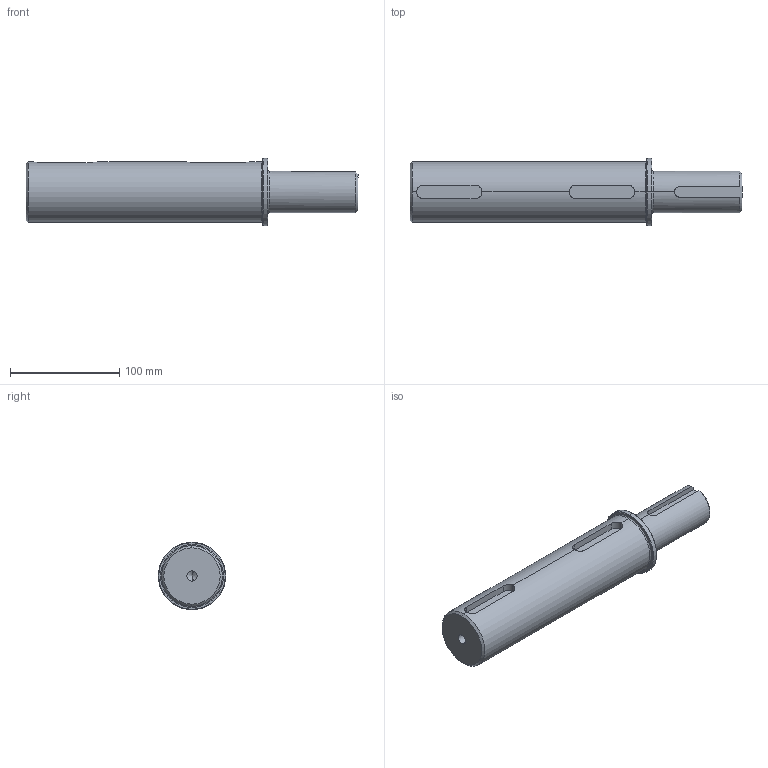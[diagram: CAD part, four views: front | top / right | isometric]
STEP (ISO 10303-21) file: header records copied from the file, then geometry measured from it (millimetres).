
FILE_DESCRIPTION (( 'STEP AP203' ), '1' );
FILE_NAME ('SSHdR325-OPS-S-1.5.STEP', '2023-01-07T03:47:29', ( '' ), ( '' ), 'SwSTEP 2.0', 'SolidWorks 2012', '' );
FILE_SCHEMA (( 'CONFIG_CONTROL_DESIGN' ));
Length unit declared in the file: millimetre
Products named in the file (1): SSHdR325-OPS-S-1.5
Bounding box: 304.45 x 62 x 62 mm (x, y, z)
Volume: 619554.4 mm3; surface area: 57287.2 mm2
Topology: 1 solids, 1 shells, 41 faces, 97 edges, 59 vertices
Faces by surface type: cylinder 15, plane 13, cone 9, torus 4
Entity records: 1420 total; most frequent: CARTESIAN_POINT 400, DIRECTION 205, ORIENTED_EDGE 190, EDGE_CURVE 95, AXIS2_PLACEMENT_3D 80, VERTEX_POINT 59, LINE 45, VECTOR 45
